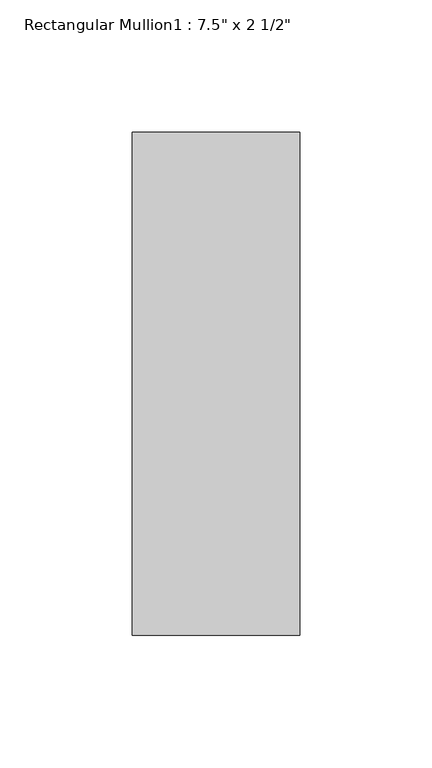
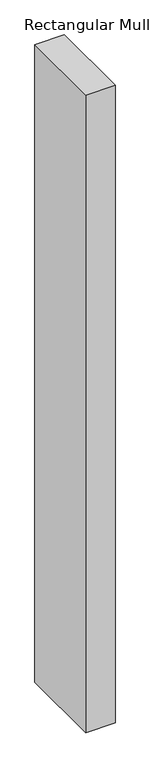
"""IFC4 building model written with IfcOpenShell, lengths in millimetres: member geometry."""

import ifcopenshell
import ifcopenshell.guid

model = None  # the IFC model being written
_history = None  # IfcOwnerHistory: only IFC2X3 demands one
_inside = {}  # id of a spatial element -> (the spatial element, [elements in it])
_under = {}  # id of a project, library or spatial element -> (it, [spatial elements below it])
_declared = {}  # id of a project -> (the project, [libraries it declares])
_typed = {}  # id of a type object -> (the type object, [elements of that type])
_made_of = {}  # id of a material, layer set ... -> (it, [elements and type objects made of it])


def new_model(schema):
    """Start an empty IFC model of exactly this schema.

    Asked for "IFC4X3", IfcOpenShell would pick the latest addendum, in which some entities
    have other attributes; the version numbers below select the first issue.
    IFC2X3 requires an IfcOwnerHistory on every rooted entity: one is made here for all.
    """
    global model, _history
    if schema == "IFC4X3":
        model = ifcopenshell.file(schema_version=(4, 3, 0, 0))
    else:
        model = ifcopenshell.file(schema=schema)
    _inside.clear()
    _under.clear()
    _declared.clear()
    _typed.clear()
    _made_of.clear()
    _history = None
    if model.schema == "IFC2X3":
        org = make("IfcOrganization", Name="unknown")
        user = make(
            "IfcPersonAndOrganization",
            ThePerson=make("IfcPerson", FamilyName="unknown"),
            TheOrganization=org,
        )
        app = make(
            "IfcApplication",
            ApplicationDeveloper=org,
            Version="unknown",
            ApplicationFullName="unknown",
            ApplicationIdentifier="unknown",
        )
        _history = make(
            "IfcOwnerHistory",
            OwningUser=user,
            OwningApplication=app,
            ChangeAction="ADDED",
            CreationDate=0,
        )
    return model


def make(cls, **values):
    """One entity of the class cls with the attributes given. An attribute that is None is left unset."""
    return model.create_entity(
        cls, **{name: value for name, value in values.items() if value is not None}
    )


def rooted(cls, **values):
    """An entity with a GlobalId (a new one), such as an element, a storey or a relation."""
    return make(cls, GlobalId=ifcopenshell.guid.new(), OwnerHistory=_history, **values)


def si_unit(unit_type, name, prefix=None):
    """IfcSIUnit, for example si_unit("LENGTHUNIT", "METRE", prefix="MILLI")."""
    return make("IfcSIUnit", UnitType=unit_type, Prefix=prefix, Name=name)


def assignment(units):
    """IfcUnitAssignment: the units of a project."""
    return None if units is None else make("IfcUnitAssignment", Units=units)


def point(xyz):
    """IfcCartesianPoint."""
    return None if xyz is None else make("IfcCartesianPoint", Coordinates=xyz)


def direction(xyz):
    """IfcDirection."""
    return None if xyz is None else make("IfcDirection", DirectionRatios=xyz)


def frame(location, z_axis=None, x_axis=None):
    """IfcAxis2Placement3D, a coordinate frame: its origin and axes. An axis left out is left unset."""
    return make(
        "IfcAxis2Placement3D",
        Location=point(location),
        Axis=direction(z_axis),
        RefDirection=direction(x_axis),
    )


def origin():
    """The frame at (0, 0, 0) with its axes left unset."""
    return frame((0.0, 0.0, 0.0))


def place(relative_to, where):
    """IfcLocalPlacement: puts the frame where relative to a parent placement (None: the world)."""
    return make(
        "IfcLocalPlacement", PlacementRelTo=relative_to, RelativePlacement=where
    )


def context(
    kind, dimensions, precision=None, world=None, true_north=None, identifier=None
):
    """IfcGeometricRepresentationContext, for example the 3D "Model" context."""
    return make(
        "IfcGeometricRepresentationContext",
        ContextIdentifier=identifier,
        ContextType=kind,
        CoordinateSpaceDimension=dimensions,
        Precision=precision,
        WorldCoordinateSystem=world,
        TrueNorth=true_north,
    )


def project(units=None, contexts=None):
    """IfcProject with its units and contexts."""
    return rooted(
        "IfcProject",
        Name="project",
        RepresentationContexts=contexts,
        UnitsInContext=assignment(units),
    )


def spatial(cls, under=None, at=None, **own):
    """A site, building, storey or space (cls), placed at a placement, below another one or the project."""
    s = rooted(cls, ObjectPlacement=at, **own)
    if under is not None:
        _under.setdefault(under.id(), (under, []))[1].append(s)
    return s


def polyline(points):
    """IfcPolyline through the points."""
    return make("IfcPolyline", Points=[point(p) for p in points])


def outline(outer, holes=None, kind="AREA"):
    """IfcArbitraryClosedProfileDef: a profile drawn as a closed curve; with holes, ...WithVoids."""
    if holes is None:
        return make("IfcArbitraryClosedProfileDef", ProfileType=kind, OuterCurve=outer)
    return make(
        "IfcArbitraryProfileDefWithVoids",
        ProfileType=kind,
        OuterCurve=outer,
        InnerCurves=holes,
    )


def extrude(swept, where, along, depth):
    """IfcExtrudedAreaSolid: the profile swept, set in the frame where, extruded along a direction by depth."""
    return make(
        "IfcExtrudedAreaSolid",
        SweptArea=swept,
        Position=where,
        ExtrudedDirection=direction(along),
        Depth=depth,
    )


def shape(context_of_items, identifier, shape_type, items):
    """IfcShapeRepresentation: the items that make up one representation, for example the "Body"."""
    return make(
        "IfcShapeRepresentation",
        ContextOfItems=context_of_items,
        RepresentationIdentifier=identifier,
        RepresentationType=shape_type,
        Items=items,
    )


def source(mapping_origin, context_of_items, identifier, shape_type, items):
    """IfcRepresentationMap: a shape defined once, which mapped items show again and again."""
    return make(
        "IfcRepresentationMap",
        MappingOrigin=mapping_origin,
        MappedRepresentation=shape(context_of_items, identifier, shape_type, items),
    )


def transform(
    local_origin,
    x_axis=None,
    y_axis=None,
    z_axis=None,
    scale=None,
    scale2=None,
    scale3=None,
    uniform=True,
):
    """IfcCartesianTransformationOperator3D, or its non-uniform kind. x_axis, y_axis, z_axis: its Axis1, 2, 3."""
    if uniform:
        return make(
            "IfcCartesianTransformationOperator3D",
            Axis1=direction(x_axis),
            Axis2=direction(y_axis),
            LocalOrigin=point(local_origin),
            Scale=scale,
            Axis3=direction(z_axis),
        )
    return make(
        "IfcCartesianTransformationOperator3DnonUniform",
        Axis1=direction(x_axis),
        Axis2=direction(y_axis),
        LocalOrigin=point(local_origin),
        Scale=scale,
        Axis3=direction(z_axis),
        Scale2=scale2,
        Scale3=scale3,
    )


def mapped(mapping_source, mapping_target):
    """IfcMappedItem: shows the shape of a source again, moved by a transform."""
    return make(
        "IfcMappedItem", MappingSource=mapping_source, MappingTarget=mapping_target
    )


def made_of(thing, what):
    """Note that an element or type object is made of a material, layer set ...; save() writes the relation."""
    if what is not None:
        _made_of.setdefault(what.id(), (what, []))[1].append(thing)
    return thing


def element(
    cls,
    number,
    at=None,
    inside=None,
    cuts=None,
    type_object=None,
    material=None,
    context=None,
    identifier="Body",
    shape_type=None,
    held_by="IfcProductDefinitionShape",
    body=None,
    shapes=None,
    **own,
):
    """One element of the class cls, such as IfcWall. Its Tag is "e" and its number.

    at: its placement. inside: the storey or other place that contains it. cuts: it is an
    opening in that element (IfcRelVoidsElement). A single representation is given by context,
    identifier, shape_type and body (its items); several are given by shapes. held_by: the class
    of the entity that holds the representations. save() writes the other relations.
    """
    e = rooted(cls, Tag="e%d" % number, ObjectPlacement=at, **own)
    if body is not None:
        shapes = [shape(context, identifier, shape_type, body)]
    if shapes is not None:
        e.Representation = make(held_by, Representations=shapes)
    if inside is not None:
        _inside.setdefault(inside.id(), (inside, []))[1].append(e)
    if cuts is not None:
        rooted(
            "IfcRelVoidsElement", RelatingBuildingElement=cuts, RelatedOpeningElement=e
        )
    if type_object is not None:
        _typed.setdefault(type_object.id(), (type_object, []))[1].append(e)
    return made_of(e, material)


def aggregate(whole, parts):
    """IfcRelAggregates: a whole, such as a stair, and the parts it consists of."""
    return rooted("IfcRelAggregates", RelatingObject=whole, RelatedObjects=parts)


def save(model, path):
    """Write the relations noted so far, then the file.

    IfcRelAggregates (storeys below a building ...), IfcRelContainedInSpatialStructure (elements
    in a storey), IfcRelDefinesByType, IfcRelAssociatesMaterial and IfcRelDeclares: one each for
    every whole, place, type object, material and project.
    """
    for whole, parts in _under.values():
        aggregate(whole, parts)
    for where, things in _inside.values():
        rooted(
            "IfcRelContainedInSpatialStructure",
            RelatedElements=things,
            RelatingStructure=where,
        )
    for kind, things in _typed.values():
        rooted("IfcRelDefinesByType", RelatedObjects=things, RelatingType=kind)
    for what, things in _made_of.values():
        rooted("IfcRelAssociatesMaterial", RelatedObjects=things, RelatingMaterial=what)
    for by, libraries in _declared.values():
        rooted("IfcRelDeclares", RelatingContext=by, RelatedDefinitions=libraries)
    model.write(path)


def member_0bf4b2b2(model_context):
    return source(origin(), model_context, "Body", "SweptSolid", [
        extrude(outline(polyline([(0.0, 165.1), (0.0, -25.4), (-63.5, -25.4), (-63.5, 165.1), (0.0, 165.1)])), frame((0.0, 0.0, -1460.5), z_axis=(0.0, 0.0, 1.0), x_axis=(1.0, 0.0, 0.0)), (0.0, 0.0, 1.0), 1460.5),
    ])


if __name__ == "__main__":
    model = new_model("IFC4")
    model_context = context("Model", 3, world=origin())
    ifc_project = project(units=[si_unit("LENGTHUNIT", "METRE", prefix="MILLI")], contexts=[model_context])
    site = spatial("IfcSite", under=ifc_project)
    building = spatial("IfcBuilding", under=site)
    placement = place(None, origin())
    member_shape = member_0bf4b2b2(model_context)
    element("IfcMember", 1, ObjectType="Rectangular Mullion1 : 7.5\" x 2 1/2\"", at=placement, inside=building, context=model_context, shape_type="MappedRepresentation", body=[
        mapped(member_shape, transform((0.0, 0.0, 0.0), x_axis=(1.0, 0.0, 0.0), y_axis=(0.0, 1.0, 0.0), z_axis=(0.0, 0.0, 1.0))),
    ])
    save(model, "model.ifc")
